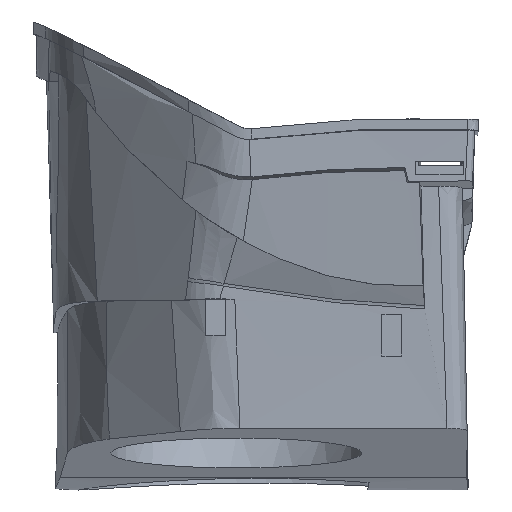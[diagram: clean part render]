
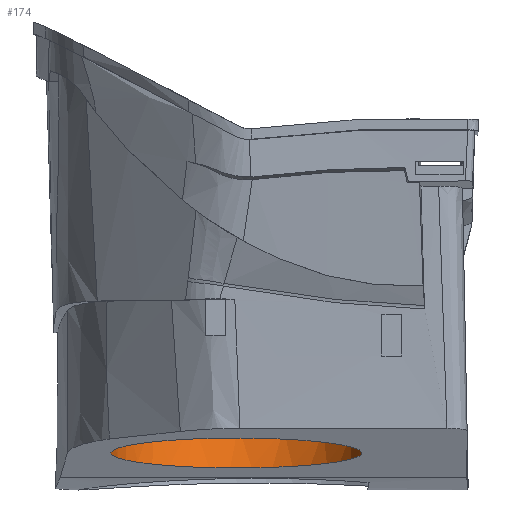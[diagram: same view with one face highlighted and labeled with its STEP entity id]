
A CAD part, top view. The second image highlights one B-rep face of the part: STEP entity #174.
In plain terms, the highlighted conical face has half-angle 10 degrees and reference radius 42.326 mm.
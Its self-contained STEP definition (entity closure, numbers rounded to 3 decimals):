
#174=ADVANCED_FACE('',(#643,#644),#645,.F.);
#643=FACE_BOUND('',#26817,.T.);
#644=FACE_OUTER_BOUND('',#26818,.T.);
#645=CONICAL_SURFACE('',#26819,42.326,0.175);
#26817=EDGE_LOOP('',(#88662));
#26818=EDGE_LOOP('',(#88663));
#26819=AXIS2_PLACEMENT_3D('',#88664,#88665,#88666);
#88662=ORIENTED_EDGE('',*,*,#99411,.F.);
#88663=ORIENTED_EDGE('',*,*,#99412,.F.);
#88664=CARTESIAN_POINT('',(-46.729,-24.398,106.975));
#88665=DIRECTION('',(0.091,0.989,-0.113));
#88666=DIRECTION('',(0.0,0.113,0.994));
#99411=EDGE_CURVE('',#100777,#100777,#100778,.F.);
#99412=EDGE_CURVE('',#100779,#100779,#100780,.F.);
#100777=VERTEX_POINT('',#105917);
#100778=ELLIPSE('',#105918,35.869,35.717);
#100779=VERTEX_POINT('',#105919);
#100780=CIRCLE('',#105920,43.331);
#105917=CARTESIAN_POINT('',(-13.727,-61.304,112.977));
#105918=AXIS2_PLACEMENT_3D('',#108735,#108736,#108737);
#105919=CARTESIAN_POINT('',(-46.213,-13.848,149.384));
#105920=AXIS2_PLACEMENT_3D('',#108738,#108739,#108740);
#108735=CARTESIAN_POINT('',(-49.553,-61.51,111.237));
#108736=DIRECTION('',(0.,-0.993,0.118));
#108737=DIRECTION('',(0.999,0.006,0.049));
#108738=CARTESIAN_POINT('',(-46.213,-18.758,106.332));
#108739=DIRECTION('',(0.091,0.989,-0.113));
#108740=DIRECTION('',(0.0,0.113,0.994));
